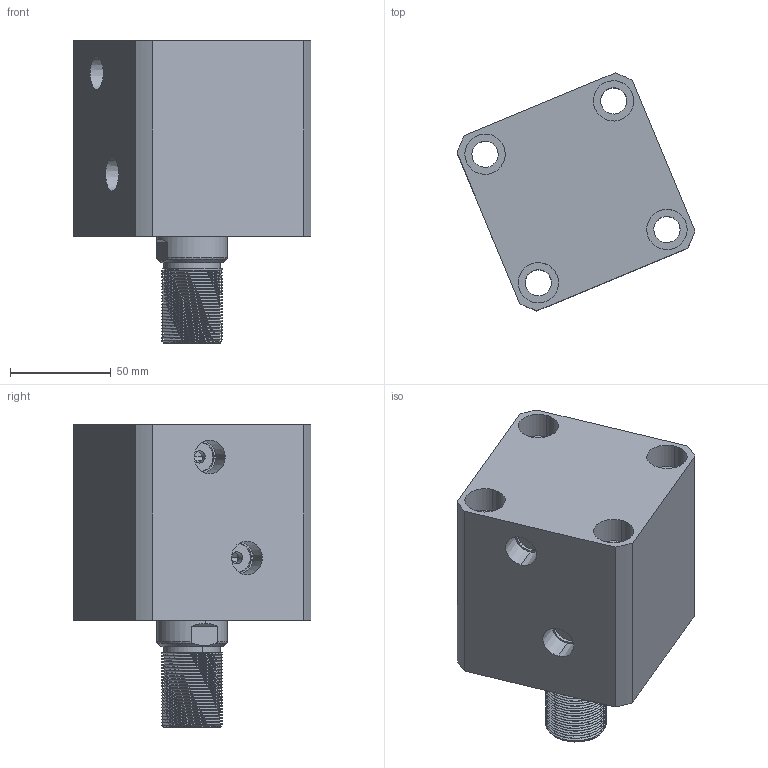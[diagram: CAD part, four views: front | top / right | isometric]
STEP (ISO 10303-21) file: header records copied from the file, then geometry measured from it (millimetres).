
FILE_DESCRIPTION (( 'STEP AP214' ), '1' );
FILE_NAME ('chtb-sd63x30w_asm.STEP', '2018-05-19T02:59:19', ( 'Windows' ), ( 'Microsoft' ), 'SwSTEP 2.0', 'SolidWorks 2015', '' );
FILE_SCHEMA (( 'AUTOMOTIVE_DESIGN' ));
Length unit declared in the file: millimetre
Products named in the file (4): CHTB63X30WHSG; CHTB63X30NBT; CHTB-63QG; chtb-sd63x30w_asm
Assembly tree (3 placements, depth 2):
  chtb-sd63x30w_asm
    CHTB-63QG
    CHTB63X30NBT
    CHTB63X30WHSG
Bounding box: 117.81 x 117.81 x 150 mm (x, y, z)
Volume: 748513.1 mm3; surface area: 132875.6 mm2
Topology: 3 solids, 3 shells, 219 faces, 625 edges, 427 vertices
Faces by surface type: cylinder 150, plane 36, bspline 14, cone 13, torus 6
Entity records: 22208 total; most frequent: CARTESIAN_POINT 16953, ORIENTED_EDGE 1242, DIRECTION 881, EDGE_CURVE 621, VERTEX_POINT 427, AXIS2_PLACEMENT_3D 346, EDGE_LOOP 252, ADVANCED_FACE 219
